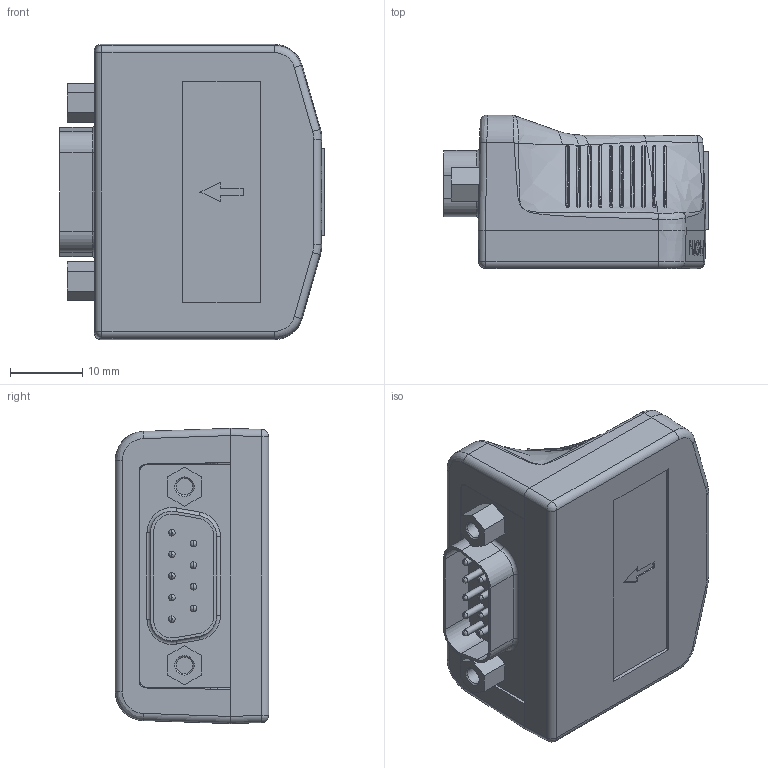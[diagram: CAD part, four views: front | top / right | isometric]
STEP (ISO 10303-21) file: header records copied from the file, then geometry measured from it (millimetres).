
FILE_DESCRIPTION(/* description */ (''),/* implementation_level */ '2;1');
FILE_NAME(/* name */ '20141202-Q7371-2.stp',/* time_stamp */ '2014-12-02T14:52:15+08:00',/* author */ (''),/* organization */ (''),/* preprocessor_version */ 'ST-DEVELOPER v14',/* originating_system */ 'SIEMENS PLM Software NX 8.0',/* authorisation */ '');
FILE_SCHEMA (('CONFIG_CONTROL_DESIGN'));
Products named in the file (1): 20141124-Q7371-2_stp
Bounding box: 36.7 x 21.3 x 41 mm (x, y, z)
Volume: 14189.7 mm3; surface area: 13352.1 mm2
Topology: 3 solids, 3 shells, 1317 faces, 3433 edges, 2213 vertices
Faces by surface type: plane 776, cylinder 176, bspline 166, extrusion 99, sphere 82, cone 12, torus 6
Full cylindrical faces by diameter (mm): 0.9 x9, 2.3 x2, 3 x2, 4.5 x1, 4.531 x2, 6 x1
Entity records: 54560 total; most frequent: CARTESIAN_POINT 24326, ORIENTED_EDGE 6810, DIRECTION 5188, EDGE_CURVE 3405, VERTEX_POINT 2208, VECTOR 2180, LINE 2081, AXIS2_PLACEMENT_3D 1504
